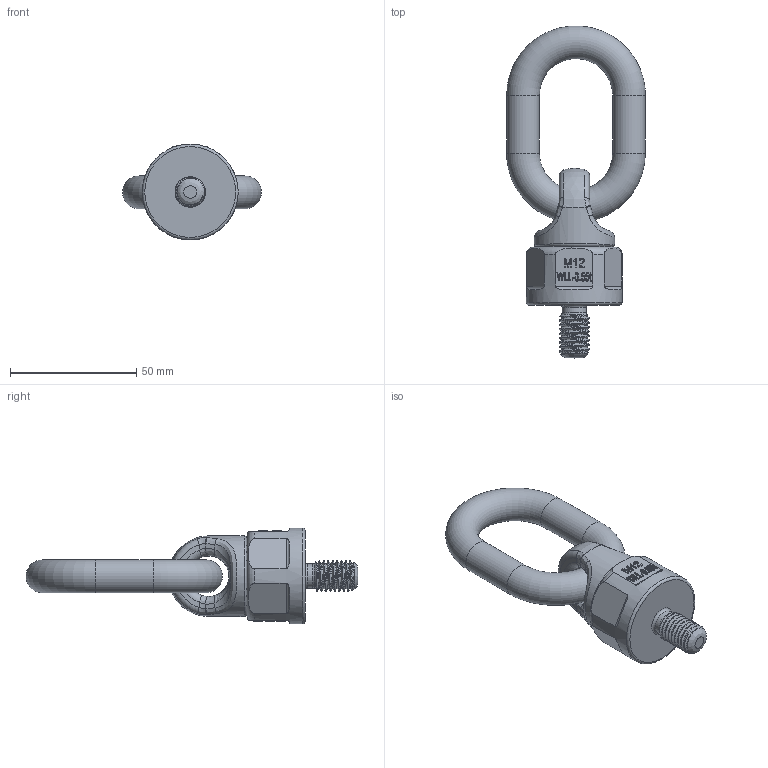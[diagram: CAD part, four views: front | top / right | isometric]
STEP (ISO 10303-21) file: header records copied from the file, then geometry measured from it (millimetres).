
FILE_DESCRIPTION(/* description */ (''),/* implementation_level */ '2;1');
FILE_NAME(/* name */ 'YTJ-M12.stp',/* time_stamp */ '2025-04-02T10:28:19+08:00',/* author */ (''),/* organization */ (''),/* preprocessor_version */ 'ST-DEVELOPER v16',/* originating_system */ 'SIEMENS PLM Software NX 10.0',/* authorisation */ '');
FILE_SCHEMA (('AP203_CONFIGURATION_CONTROLLED_3D_DESIGN_OF_MECHANICAL_PARTS_AND_ASSEMBLIES_MIM_LF { 1 0 10303 403 2 1 2}'));
Length unit declared in the file: millimetre
Products named in the file (1): Admi177C9AD32hxn
Bounding box: 55 x 131.62 x 38 mm (x, y, z)
Volume: 60565.4 mm3; surface area: 18793.9 mm2
Topology: 3 solids, 3 shells, 285 faces, 731 edges, 477 vertices
Faces by surface type: plane 158, extrusion 60, bspline 24, cylinder 21, torus 20, sphere 1, cone 1
Full cylindrical faces by diameter (mm): 9.6 x1, 13 x2, 18.8 x1, 19.9 x1, 31.985 x1, 38 x1
Entity records: 11738 total; most frequent: CARTESIAN_POINT 5429, ORIENTED_EDGE 1388, DIRECTION 1005, EDGE_CURVE 694, VERTEX_POINT 462, VECTOR 367, EDGE_LOOP 334, B_SPLINE_CURVE_WITH_KNOTS 331
